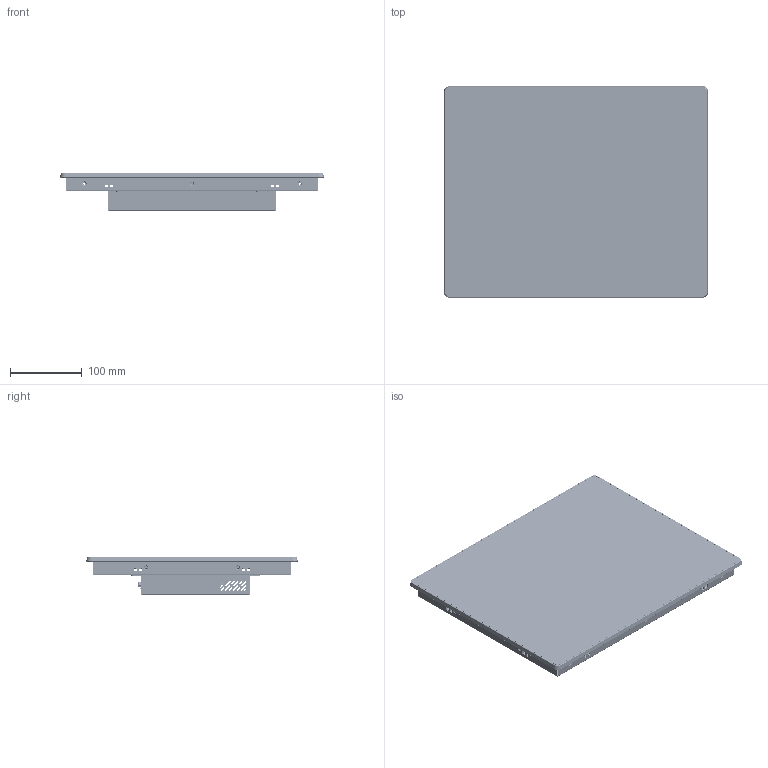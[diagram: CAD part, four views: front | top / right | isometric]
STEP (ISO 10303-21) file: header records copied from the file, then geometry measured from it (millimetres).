
FILE_DESCRIPTION((''),'2;1');
FILE_NAME('000_IT7150E_ASM','2019-06-25T',('t3226'),(''),'CREO PARAMETRIC BY PTC INC, 2015290','CREO PARAMETRIC BY PTC INC, 2015290','');
FILE_SCHEMA(('AUTOMOTIVE_DESIGN { 1 0 10303 214 1 1 1 1 }'));
Products named in the file (34): 32010612; SIT20420621; SIT20420622; SIT20420623; SIT20420623_ASM; SIT20420626; 32010612_ASM; 20190873; 20190873_ASM; SIT20187173; HC-S-M3-ZC-R0; SIT20187173_ASM; SIT20187174; SIT20187174_ASM; SIT20183807; SIT20183807_ASM; 20181902_ASM; 20251004; 20251005; 21020557; GB9074_8-88_M3X6; 20340331; 20190916; HC-BSO-3_5M3-6-ZC-R0; HC-FH-M3-6-ZC-R0; 20190916_ASM; 01-IT7150E-MD_ASM; 10060028; 10030085; 01-IT7150E-LCDTP_ASM; 02013273; 02013275; 01-IT7150E-PCB_ASM; 000_IT7150E_ASM
Assembly tree (57 placements, depth 5):
  000_IT7150E_ASM
    01-IT7150E-MD_ASM
      32010612_ASM
        32010612
        SIT20420621  x2
        SIT20420622  x2
        SIT20420623_ASM
          SIT20420623
        SIT20420626  x2
      20190873_ASM
        20190873
      20181902_ASM
        SIT20187173_ASM
          SIT20187173
          HC-S-M3-ZC-R0  x2
        SIT20187174_ASM
          SIT20187174
          HC-S-M3-ZC-R0  x2
        SIT20183807_ASM  x2
          SIT20183807
          HC-S-M3-ZC-R0
      20251004
      20251005
      21020557  x4
      GB9074_8-88_M3X6  x4
      20340331
      20190916_ASM
        20190916
        HC-BSO-3_5M3-6-ZC-R0  x5
        HC-S-M3-ZC-R0  x4
        HC-FH-M3-6-ZC-R0
    01-IT7150E-LCDTP_ASM
      10060028
      10030085
    01-IT7150E-PCB_ASM
      02013273
      02013275
Bounding box: 367.83 x 294.83 x 53 mm (x, y, z)
Volume: 1424854.3 mm3; surface area: 1020021.8 mm2
Topology: 70 solids, 70 shells, 12611 faces, 35076 edges, 22902 vertices
Faces by surface type: plane 7519, cylinder 4570, cone 203, torus 193, sphere 64, bspline 62
Entity records: 501588 total; most frequent: CARTESIAN_POINT 86436, DIRECTION 57052, ORIENTED_EDGE 56780, PRESENTATION_STYLE_ASSIGNMENT 34591, STYLED_ITEM 28478, CURVE_STYLE 28390, EDGE_CURVE 28390, VECTOR 19048
